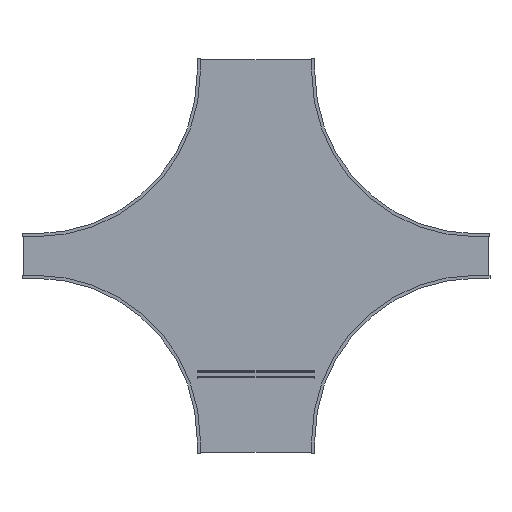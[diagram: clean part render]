
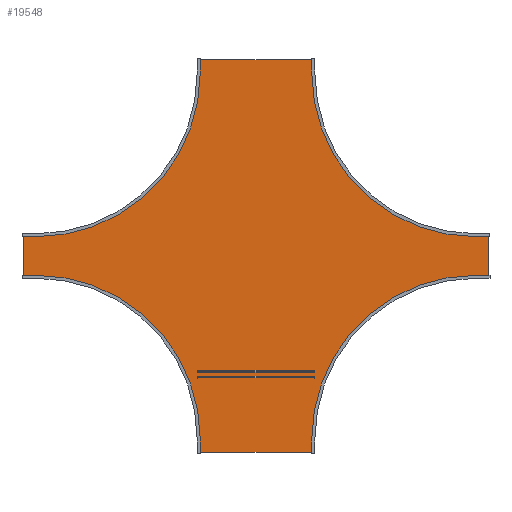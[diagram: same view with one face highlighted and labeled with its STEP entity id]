
A CAD part, front view. The second image highlights one B-rep face of the part: STEP entity #19548.
In plain terms, the highlighted planar face has unit normal (0, -1, 0).
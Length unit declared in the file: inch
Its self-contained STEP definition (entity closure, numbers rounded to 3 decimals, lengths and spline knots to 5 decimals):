
#19245=DIRECTION('',(0.,0.,1.));
#19246=VECTOR('',#19245,8.875);
#19247=CARTESIAN_POINT('',(-47.875,0.,-4.4375));
#19248=LINE('',#19247,#19246);
#19249=DIRECTION('',(1.,0.,0.));
#19250=VECTOR('',#19249,2.785);
#19251=CARTESIAN_POINT('',(-47.875,0.,4.4375));
#19252=LINE('',#19251,#19250);
#19253=CARTESIAN_POINT('',(-45.09,0.,37.59));
#19254=DIRECTION('',(0.,-1.,0.));
#19255=DIRECTION('',(0.,0.,-1.));
#19256=AXIS2_PLACEMENT_3D('',#19253,#19254,#19255);
#19258=DIRECTION('',(0.,0.,1.));
#19259=VECTOR('',#19258,2.785);
#19260=CARTESIAN_POINT('',(-11.9375,0.,37.59));
#19261=LINE('',#19260,#19259);
#19262=DIRECTION('',(1.,0.,0.));
#19263=VECTOR('',#19262,23.875);
#19264=CARTESIAN_POINT('',(-11.9375,0.,40.375));
#19265=LINE('',#19264,#19263);
#19266=DIRECTION('',(0.,0.,-1.));
#19267=VECTOR('',#19266,2.785);
#19268=CARTESIAN_POINT('',(11.9375,0.,40.375));
#19269=LINE('',#19268,#19267);
#19270=CARTESIAN_POINT('',(45.09,0.,37.59));
#19271=DIRECTION('',(0.,-1.,0.));
#19272=DIRECTION('',(-1.,0.,0.));
#19273=AXIS2_PLACEMENT_3D('',#19270,#19271,#19272);
#19275=DIRECTION('',(1.,0.,0.));
#19276=VECTOR('',#19275,2.785);
#19277=CARTESIAN_POINT('',(45.09,0.,4.4375));
#19278=LINE('',#19277,#19276);
#19279=DIRECTION('',(0.,0.,-1.));
#19280=VECTOR('',#19279,8.875);
#19281=CARTESIAN_POINT('',(47.875,0.,4.4375));
#19282=LINE('',#19281,#19280);
#19283=DIRECTION('',(-1.,0.,0.));
#19284=VECTOR('',#19283,2.785);
#19285=CARTESIAN_POINT('',(47.875,0.,-4.4375));
#19286=LINE('',#19285,#19284);
#19287=CARTESIAN_POINT('',(45.09,0.,-37.59));
#19288=DIRECTION('',(0.,-1.,0.));
#19289=DIRECTION('',(0.,0.,1.));
#19290=AXIS2_PLACEMENT_3D('',#19287,#19288,#19289);
#19292=DIRECTION('',(0.,0.,-1.));
#19293=VECTOR('',#19292,2.785);
#19294=CARTESIAN_POINT('',(11.9375,0.,-37.59));
#19295=LINE('',#19294,#19293);
#19296=DIRECTION('',(-1.,0.,0.));
#19297=VECTOR('',#19296,23.875);
#19298=CARTESIAN_POINT('',(11.9375,0.,-40.375));
#19299=LINE('',#19298,#19297);
#19300=DIRECTION('',(0.,0.,1.));
#19301=VECTOR('',#19300,2.785);
#19302=CARTESIAN_POINT('',(-11.9375,0.,-40.375));
#19303=LINE('',#19302,#19301);
#19304=CARTESIAN_POINT('',(-45.09,0.,-37.59));
#19305=DIRECTION('',(0.,-1.,0.));
#19306=DIRECTION('',(1.,0.,0.));
#19307=AXIS2_PLACEMENT_3D('',#19304,#19305,#19306);
#19309=DIRECTION('',(-1.,0.,0.));
#19310=VECTOR('',#19309,2.785);
#19311=CARTESIAN_POINT('',(-45.09,0.,-4.4375));
#19312=LINE('',#19311,#19310);
#19445=CARTESIAN_POINT('',(-47.875,0.,-4.4375));
#19446=CARTESIAN_POINT('',(-47.875,0.,4.4375));
#19447=VERTEX_POINT('',#19445);
#19448=VERTEX_POINT('',#19446);
#19449=CARTESIAN_POINT('',(-45.09,0.,4.4375));
#19450=VERTEX_POINT('',#19449);
#19451=CARTESIAN_POINT('',(-11.9375,0.,37.59));
#19452=VERTEX_POINT('',#19451);
#19453=CARTESIAN_POINT('',(-11.9375,0.,40.375));
#19454=VERTEX_POINT('',#19453);
#19455=CARTESIAN_POINT('',(11.9375,0.,40.375));
#19456=VERTEX_POINT('',#19455);
#19457=CARTESIAN_POINT('',(11.9375,0.,37.59));
#19458=VERTEX_POINT('',#19457);
#19459=CARTESIAN_POINT('',(45.09,0.,4.4375));
#19460=VERTEX_POINT('',#19459);
#19461=CARTESIAN_POINT('',(47.875,0.,4.4375));
#19462=VERTEX_POINT('',#19461);
#19463=CARTESIAN_POINT('',(47.875,0.,-4.4375));
#19464=VERTEX_POINT('',#19463);
#19465=CARTESIAN_POINT('',(45.09,0.,-4.4375));
#19466=VERTEX_POINT('',#19465);
#19467=CARTESIAN_POINT('',(11.9375,0.,-37.59));
#19468=VERTEX_POINT('',#19467);
#19469=CARTESIAN_POINT('',(11.9375,0.,-40.375));
#19470=VERTEX_POINT('',#19469);
#19471=CARTESIAN_POINT('',(-11.9375,0.,-40.375));
#19472=VERTEX_POINT('',#19471);
#19473=CARTESIAN_POINT('',(-11.9375,0.,-37.59));
#19474=VERTEX_POINT('',#19473);
#19475=CARTESIAN_POINT('',(-45.09,0.,-4.4375));
#19476=VERTEX_POINT('',#19475);
#19509=CARTESIAN_POINT('',(0.,0.,0.));
#19510=DIRECTION('',(0.,1.,0.));
#19511=DIRECTION('',(1.,0.,0.));
#19512=AXIS2_PLACEMENT_3D('',#19509,#19510,#19511);
#19513=PLANE('',#19512);
#19515=ORIENTED_EDGE('',*,*,#19514,.T.);
#19517=ORIENTED_EDGE('',*,*,#19516,.T.);
#19519=ORIENTED_EDGE('',*,*,#19518,.T.);
#19521=ORIENTED_EDGE('',*,*,#19520,.T.);
#19523=ORIENTED_EDGE('',*,*,#19522,.T.);
#19525=ORIENTED_EDGE('',*,*,#19524,.T.);
#19527=ORIENTED_EDGE('',*,*,#19526,.T.);
#19529=ORIENTED_EDGE('',*,*,#19528,.T.);
#19531=ORIENTED_EDGE('',*,*,#19530,.T.);
#19533=ORIENTED_EDGE('',*,*,#19532,.T.);
#19535=ORIENTED_EDGE('',*,*,#19534,.T.);
#19537=ORIENTED_EDGE('',*,*,#19536,.T.);
#19539=ORIENTED_EDGE('',*,*,#19538,.T.);
#19541=ORIENTED_EDGE('',*,*,#19540,.T.);
#19543=ORIENTED_EDGE('',*,*,#19542,.T.);
#19545=ORIENTED_EDGE('',*,*,#19544,.T.);
#19546=EDGE_LOOP('',(#19515,#19517,#19519,#19521,#19523,#19525,#19527,#19529,
#19531,#19533,#19535,#19537,#19539,#19541,#19543,#19545));
#19547=FACE_OUTER_BOUND('',#19546,.F.);
#19548=ADVANCED_FACE('',(#19547),#19513,.F.);
#19257=CIRCLE('',#19256,33.1525);
#19274=CIRCLE('',#19273,33.1525);
#19291=CIRCLE('',#19290,33.1525);
#19308=CIRCLE('',#19307,33.1525);
#19514=EDGE_CURVE('',#19447,#19448,#19248,.T.);
#19516=EDGE_CURVE('',#19448,#19450,#19252,.T.);
#19518=EDGE_CURVE('',#19450,#19452,#19257,.T.);
#19520=EDGE_CURVE('',#19452,#19454,#19261,.T.);
#19522=EDGE_CURVE('',#19454,#19456,#19265,.T.);
#19524=EDGE_CURVE('',#19456,#19458,#19269,.T.);
#19526=EDGE_CURVE('',#19458,#19460,#19274,.T.);
#19528=EDGE_CURVE('',#19460,#19462,#19278,.T.);
#19530=EDGE_CURVE('',#19462,#19464,#19282,.T.);
#19532=EDGE_CURVE('',#19464,#19466,#19286,.T.);
#19534=EDGE_CURVE('',#19466,#19468,#19291,.T.);
#19536=EDGE_CURVE('',#19468,#19470,#19295,.T.);
#19538=EDGE_CURVE('',#19470,#19472,#19299,.T.);
#19540=EDGE_CURVE('',#19472,#19474,#19303,.T.);
#19542=EDGE_CURVE('',#19474,#19476,#19308,.T.);
#19544=EDGE_CURVE('',#19476,#19447,#19312,.T.);
